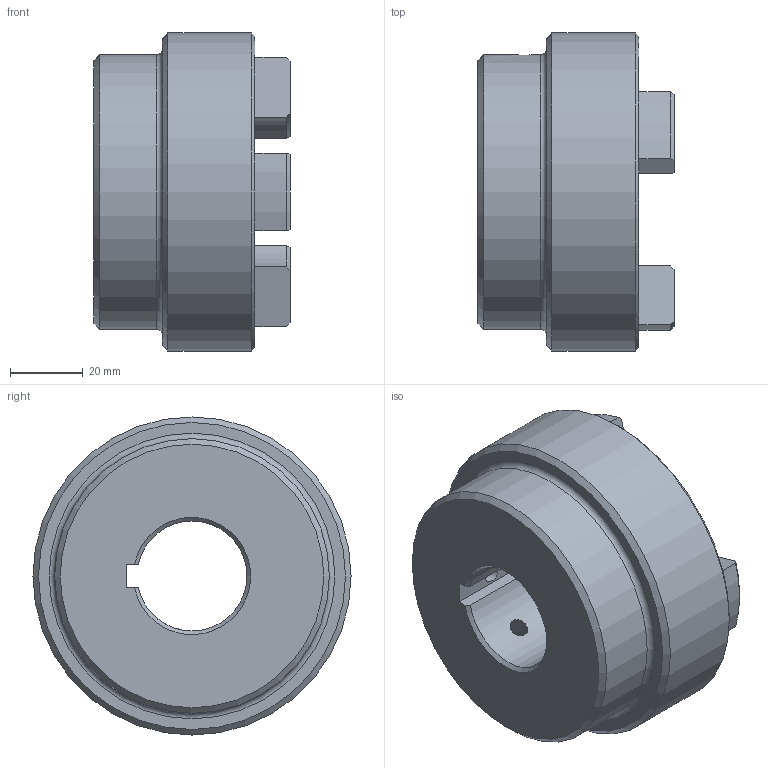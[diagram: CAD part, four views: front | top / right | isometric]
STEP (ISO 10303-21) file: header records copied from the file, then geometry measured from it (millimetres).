
FILE_DESCRIPTION (( 'STEP AP203' ), '1' );
FILE_NAME ('RC3.step', '2024-07-24T12:48:18', ( 'Adlan' ), ( '' ), 'SwSTEP 2.0', 'SolidWorks 2013', '' );
FILE_SCHEMA (( 'CONFIG_CONTROL_DESIGN' ));
Length unit declared in the file: inch
Products named in the file (1): RC3
Bounding box: 53.85 x 87.38 x 87.38 mm (x, y, z)
Volume: 171505 mm3; surface area: 30532.2 mm2
Topology: 1 solids, 1 shells, 67 faces, 168 edges, 105 vertices
Faces by surface type: cylinder 26, plane 16, torus 13, cone 12
Full cylindrical faces by diameter (mm): 5.105 x2, 75.438 x1, 87.376 x1
Entity records: 2241 total; most frequent: CARTESIAN_POINT 566, DIRECTION 354, ORIENTED_EDGE 310, EDGE_CURVE 155, AXIS2_PLACEMENT_3D 142, VERTEX_POINT 102, EDGE_LOOP 85, CIRCLE 74
